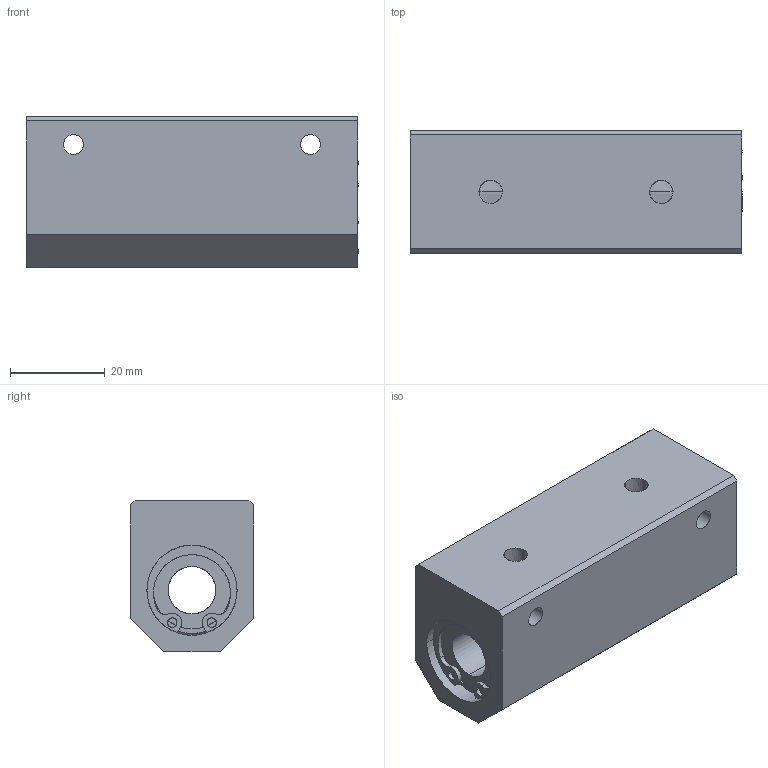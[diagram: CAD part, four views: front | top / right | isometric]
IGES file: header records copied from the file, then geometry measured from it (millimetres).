
Global section: file name: No Iges File Name specified; native system: AutoDesk Inventor R10; preprocessor: AutoDesk Inventor Iges Exporter R10; author: No Author specified; organization: No Organization specified; date: 20101216.152231; units: millimetre
Bounding box: 70 x 26 x 32 mm (x, y, z)
Surface area: 13101.3 mm2 (no closed solid volume)
Topology: 0 solids, 0 shells, 102 faces, 732 edges, 732 vertices
Faces by surface type: bspline 102
